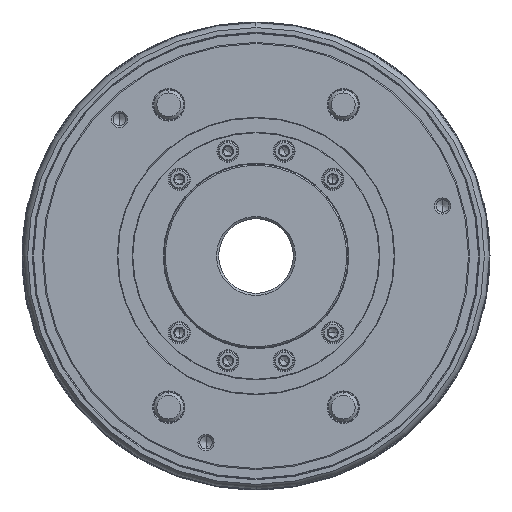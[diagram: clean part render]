
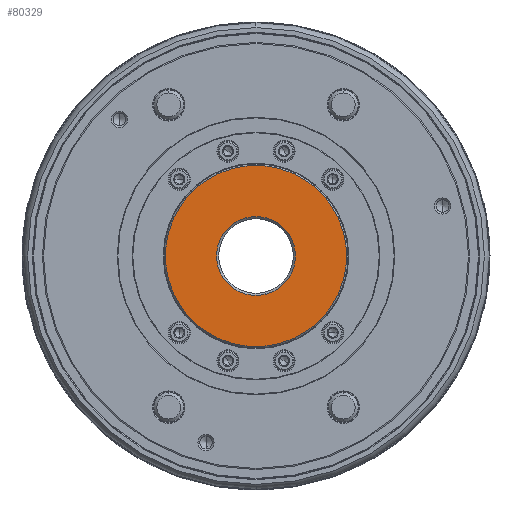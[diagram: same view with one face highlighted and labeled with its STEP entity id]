
A CAD part, left-side view. The second image highlights one B-rep face of the part: STEP entity #80329.
In plain terms, the highlighted planar face has unit normal (-1, 0, 0).
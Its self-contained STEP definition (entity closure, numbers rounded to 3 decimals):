
#3526 = EDGE_CURVE ( 'NONE', #31602, #58623, #49436, .T. ) ;
#19150 = AXIS2_PLACEMENT_3D ( 'NONE', #41781, #55738, #79134 ) ;
#19950 = DIRECTION ( 'NONE',  ( 1., 0., 0. ) ) ;
#22900 = EDGE_CURVE ( 'NONE', #58623, #31602, #80245, .T. ) ;
#23105 = CIRCLE ( 'NONE', #91478, 61. ) ;
#23228 = DIRECTION ( 'NONE',  ( 0., 0., 1. ) ) ;
#23717 = FACE_BOUND ( 'NONE', #71933, .T. ) ;
#24700 = CARTESIAN_POINT ( 'NONE',  ( -30., 26.6, 0. ) ) ;
#29009 = CARTESIAN_POINT ( 'NONE',  ( -30., 0., 0. ) ) ;
#31602 = VERTEX_POINT ( 'NONE', #84230 ) ;
#36744 = CARTESIAN_POINT ( 'NONE',  ( -30., 0., -61. ) ) ;
#36865 = VERTEX_POINT ( 'NONE', #63685 ) ;
#41781 = CARTESIAN_POINT ( 'NONE',  ( -30., 0., 0. ) ) ;
#42364 = CARTESIAN_POINT ( 'NONE',  ( -30., 0., 0. ) ) ;
#42419 = CIRCLE ( 'NONE', #48796, 61. ) ;
#42948 = DIRECTION ( 'NONE',  ( 1., 0., 0. ) ) ;
#47082 = DIRECTION ( 'NONE',  ( -1., 0., 0. ) ) ;
#48796 = AXIS2_PLACEMENT_3D ( 'NONE', #42364, #19950, #72723 ) ;
#49436 = CIRCLE ( 'NONE', #19150, 26.6 ) ;
#50039 = AXIS2_PLACEMENT_3D ( 'NONE', #29009, #67802, #91193 ) ;
#55738 = DIRECTION ( 'NONE',  ( 1., 0., 0. ) ) ;
#56211 = ORIENTED_EDGE ( 'NONE', *, *, #82101, .F. ) ;
#58623 = VERTEX_POINT ( 'NONE', #95607 ) ;
#63685 = CARTESIAN_POINT ( 'NONE',  ( -30., 0., 61. ) ) ;
#64996 = AXIS2_PLACEMENT_3D ( 'NONE', #24700, #47082, #23228 ) ;
#67802 = DIRECTION ( 'NONE',  ( 1., 0., 0. ) ) ;
#68921 = ORIENTED_EDGE ( 'NONE', *, *, #22900, .T. ) ;
#69966 = FACE_OUTER_BOUND ( 'NONE', #76868, .T. ) ;
#71933 = EDGE_LOOP ( 'NONE', ( #76515, #68921 ) ) ;
#72723 = DIRECTION ( 'NONE',  ( 0., 0., -1. ) ) ;
#74315 = DIRECTION ( 'NONE',  ( 0., 0., -1. ) ) ;
#76515 = ORIENTED_EDGE ( 'NONE', *, *, #3526, .T. ) ;
#76618 = VERTEX_POINT ( 'NONE', #36744 ) ;
#76868 = EDGE_LOOP ( 'NONE', ( #56211, #97388 ) ) ;
#79134 = DIRECTION ( 'NONE',  ( 0., 0., -1. ) ) ;
#80245 = CIRCLE ( 'NONE', #50039, 26.6 ) ;
#80329 = ADVANCED_FACE ( 'NONE', ( #23717, #69966 ), #84914, .T. ) ;
#82101 = EDGE_CURVE ( 'NONE', #76618, #36865, #23105, .T. ) ;
#84230 = CARTESIAN_POINT ( 'NONE',  ( -30., 0., 26.6 ) ) ;
#84914 = PLANE ( 'NONE',  #64996 ) ;
#85818 = EDGE_CURVE ( 'NONE', #36865, #76618, #42419, .T. ) ;
#91193 = DIRECTION ( 'NONE',  ( 0., 0., -1. ) ) ;
#91478 = AXIS2_PLACEMENT_3D ( 'NONE', #98180, #42948, #74315 ) ;
#95607 = CARTESIAN_POINT ( 'NONE',  ( -30., 0., -26.6 ) ) ;
#97388 = ORIENTED_EDGE ( 'NONE', *, *, #85818, .F. ) ;
#98180 = CARTESIAN_POINT ( 'NONE',  ( -30., 0., 0. ) ) ;
